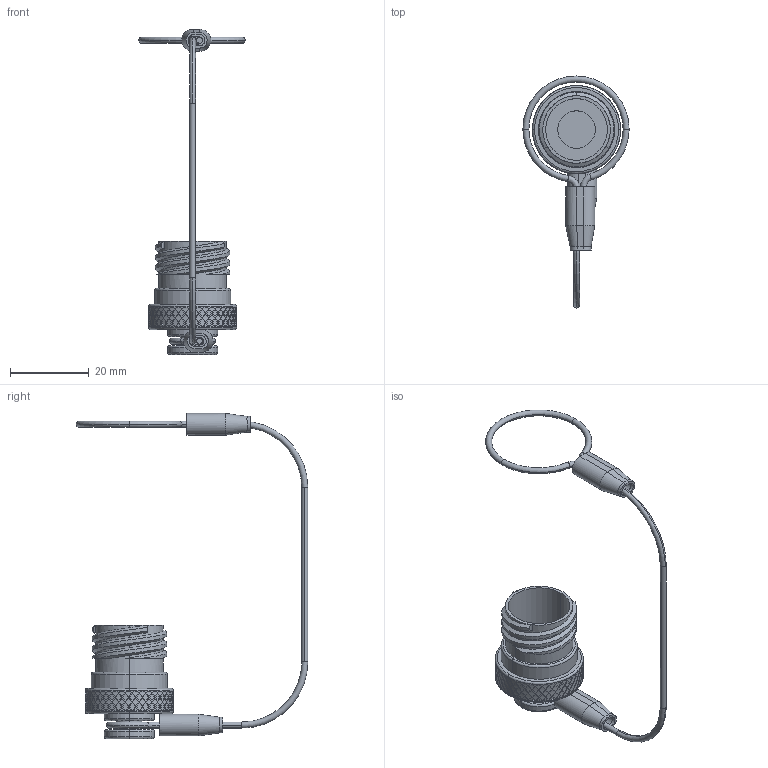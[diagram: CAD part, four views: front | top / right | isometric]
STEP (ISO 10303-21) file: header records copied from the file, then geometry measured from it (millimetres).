
FILE_DESCRIPTION (( 'STEP AP214' ), '1' );
FILE_NAME ('Q38DC-PGX-11-R2.STEP', '2026-04-22T18:15:08', ( '' ), ( '' ), 'SwSTEP 2.0', 'SolidWorks 2024', '' );
FILE_SCHEMA (( 'AUTOMOTIVE_DESIGN' ));
Length unit declared in the file: inch
Products named in the file (7): Lanyard Assembly Q38_PLUG; Q38-XX29-P_11P; SW-003; Q38-XX28-X_Q38-1128; HEAT SHRINK_HS-250X625; LN-06-07-XX-Q38eb_Plug; Q38DC-PGX-11-R2
Assembly tree (8 placements, depth 3):
  Q38DC-PGX-11-R2
    Q38-XX28-X_Q38-1128
    Lanyard Assembly Q38_PLUG
      LN-06-07-XX-Q38eb_Plug
      SW-003  x2
      HEAT SHRINK_HS-250X625  x2
    Q38-XX29-P_11P
Bounding box: 26.92 x 58.67 x 82.38 mm (x, y, z)
Volume: 5336.6 mm3; surface area: 7057.9 mm2
Topology: 7 solids, 7 shells, 1176 faces, 2825 edges, 1861 vertices
Faces by surface type: plane 852, cylinder 273, torus 34, bspline 17
Entity records: 34704 total; most frequent: CARTESIAN_POINT 11915, ORIENTED_EDGE 5502, DIRECTION 3861, EDGE_CURVE 2751, VERTEX_POINT 1817, AXIS2_PLACEMENT_3D 1474, EDGE_LOOP 1346, ADVANCED_FACE 1142
